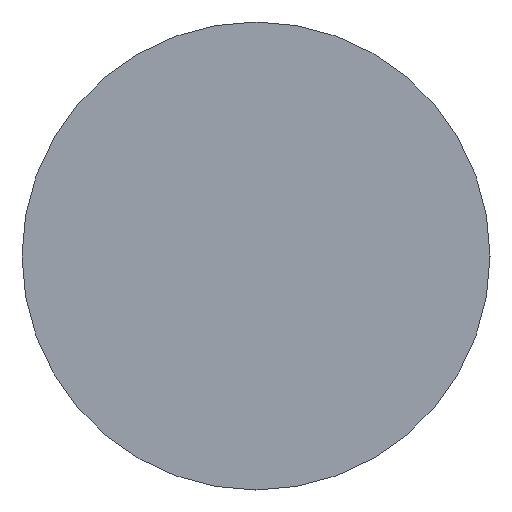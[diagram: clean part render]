
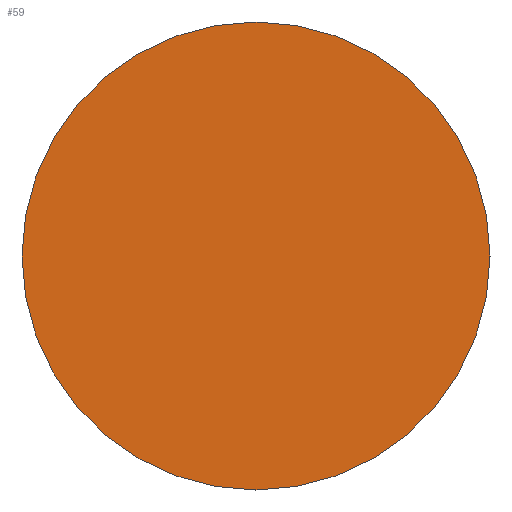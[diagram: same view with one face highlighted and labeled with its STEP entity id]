
A CAD part, left-side view. The second image highlights one B-rep face of the part: STEP entity #59.
In plain terms, the highlighted planar face has unit normal (-1, 0, 0).
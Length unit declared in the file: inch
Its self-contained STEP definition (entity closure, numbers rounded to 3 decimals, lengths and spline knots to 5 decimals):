
#21 = ORIENTED_EDGE ( 'NONE', *, *, #193, .T. ) ;
#27 = ORIENTED_EDGE ( 'NONE', *, *, #165, .T. ) ;
#59 = ADVANCED_FACE ( 'NONE', ( #158 ), #109, .F. ) ;
#98 = CIRCLE ( 'NONE', #453, 0.5 ) ;
#109 = PLANE ( 'NONE',  #411 ) ;
#128 = CARTESIAN_POINT ( 'NONE',  ( -6., 0., 0. ) ) ;
#158 = FACE_OUTER_BOUND ( 'NONE', #261, .T. ) ;
#165 = EDGE_CURVE ( 'NONE', #232, #238, #98, .T. ) ;
#171 = CARTESIAN_POINT ( 'NONE',  ( -6., 0., 0.5 ) ) ;
#193 = EDGE_CURVE ( 'NONE', #238, #232, #418, .T. ) ;
#207 = DIRECTION ( 'NONE',  ( 1., 0., 0. ) ) ;
#232 = VERTEX_POINT ( 'NONE', #378 ) ;
#238 = VERTEX_POINT ( 'NONE', #171 ) ;
#261 = EDGE_LOOP ( 'NONE', ( #21, #27 ) ) ;
#280 = CARTESIAN_POINT ( 'NONE',  ( -6., 0.5, 0. ) ) ;
#292 = DIRECTION ( 'NONE',  ( 0., 0., 1. ) ) ;
#318 = DIRECTION ( 'NONE',  ( 0., 0., 1. ) ) ;
#354 = DIRECTION ( 'NONE',  ( -1., 0., 0. ) ) ;
#360 = DIRECTION ( 'NONE',  ( -1., 0., 0. ) ) ;
#362 = AXIS2_PLACEMENT_3D ( 'NONE', #363, #354, #318 ) ;
#363 = CARTESIAN_POINT ( 'NONE',  ( -6., 0., 0. ) ) ;
#378 = CARTESIAN_POINT ( 'NONE',  ( -6., 0., -0.5 ) ) ;
#411 = AXIS2_PLACEMENT_3D ( 'NONE', #280, #207, #441 ) ;
#418 = CIRCLE ( 'NONE', #362, 0.5 ) ;
#441 = DIRECTION ( 'NONE',  ( 0., 0., -1. ) ) ;
#453 = AXIS2_PLACEMENT_3D ( 'NONE', #128, #360, #292 ) ;
